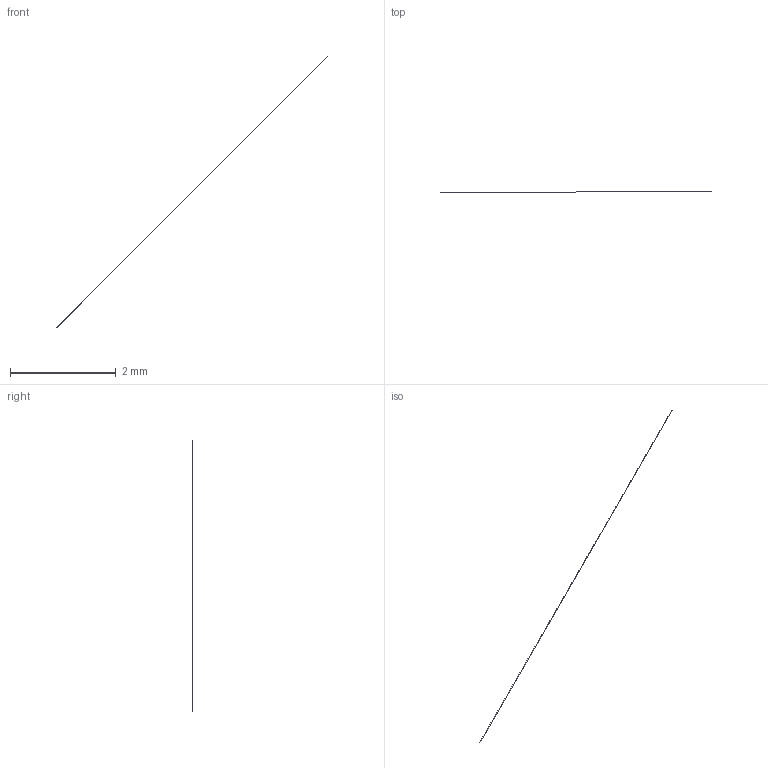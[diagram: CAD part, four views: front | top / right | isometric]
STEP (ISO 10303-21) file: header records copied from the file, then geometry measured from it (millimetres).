
FILE_DESCRIPTION(/* description */ ('STEP AP242 Edition 2','CAx-IF Rec.Pracs.---Representation and Presentation of Product Manufacturing Information (PMI)---4.0---2014-10-13','CAx-IF Rec.Pracs.---3D Tessellated Geometry---0.4---2014-09-14','2;1','CAx-IF Rec.Pracs.---User Defined Attributes---1.5---2016-08-15'),/* implementation_level */ '2;1');
FILE_NAME(/* name */ 'Assembly 1 - Part 13',/* time_stamp */ '2026-03-29T21:14:57Z',/* author */ (''),/* organization */ (''),/* preprocessor_version */ 'ST-DEVELOPER v20',/* originating_system */ 'ONSHAPE BY PTC INC, 1.212',/* authorisation */ ' ');
FILE_SCHEMA (('AP242_MANAGED_MODEL_BASED_3D_ENGINEERING_MIM_LF { 1 0 10303 442 3 1 4 }'));
Length unit declared in the file: metre
Products named in the file (1): Part 13
Bounding box: 5.14 x 0 x 5.12 mm (x, y, z)
Surface area: 0.1 mm2 (no closed solid volume)
Topology: 0 solids, 1 shells, 1 faces, 0 edges, 0 vertices
Faces by surface type: other 1
Entity records: 31 total; most frequent: DIRECTION 2, SHAPE_REPRESENTATION_RELATIONSHIP 1, TESSELLATED_SHAPE_REPRESENTATION 1, STYLED_ITEM 1, PRESENTATION_STYLE_ASSIGNMENT 1, SURFACE_STYLE_USAGE 1, SURFACE_SIDE_STYLE 1, SURFACE_STYLE_FILL_AREA 1
